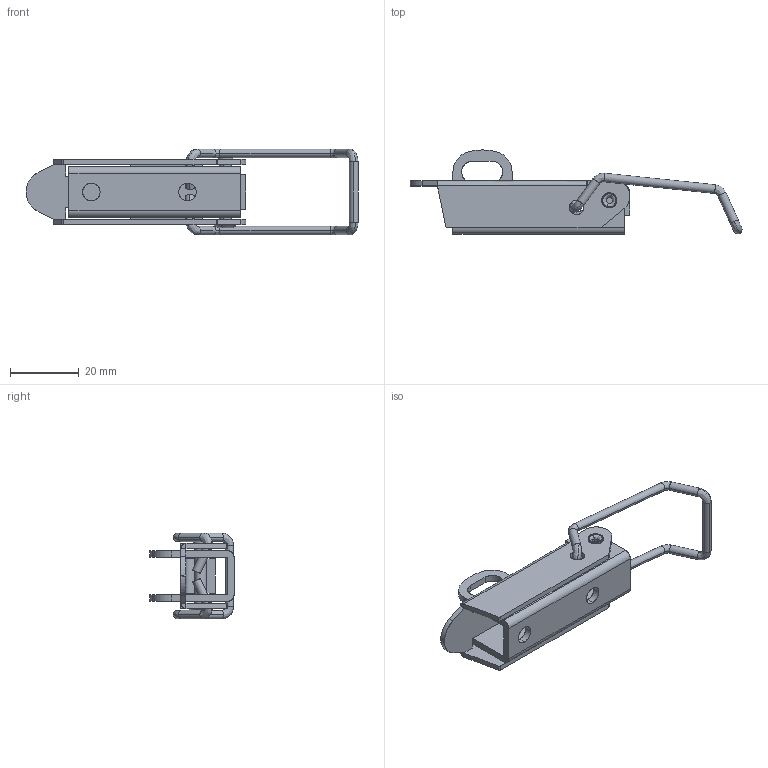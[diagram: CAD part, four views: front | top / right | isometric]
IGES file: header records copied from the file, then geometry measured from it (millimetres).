
Start section: SolidWorks IGES FILE using analytic representation for surfaces
Global section: file name: C:\Documents and Settings\brechard\Bureau\GE 576\GE 576.IGS; native system: SolidWorks 2001Plus by SolidWorks Corporation; preprocessor: Version 5.3; author: brechard; date: 050126.095408; units: millimetre
Bounding box: 96.62 x 24.5 x 25 mm (x, y, z)
Surface area: 10719.6 mm2 (no closed solid volume)
Topology: 0 solids, 0 shells, 158 faces, 2102 edges, 2102 vertices
Faces by surface type: bspline 86, revolution 72
